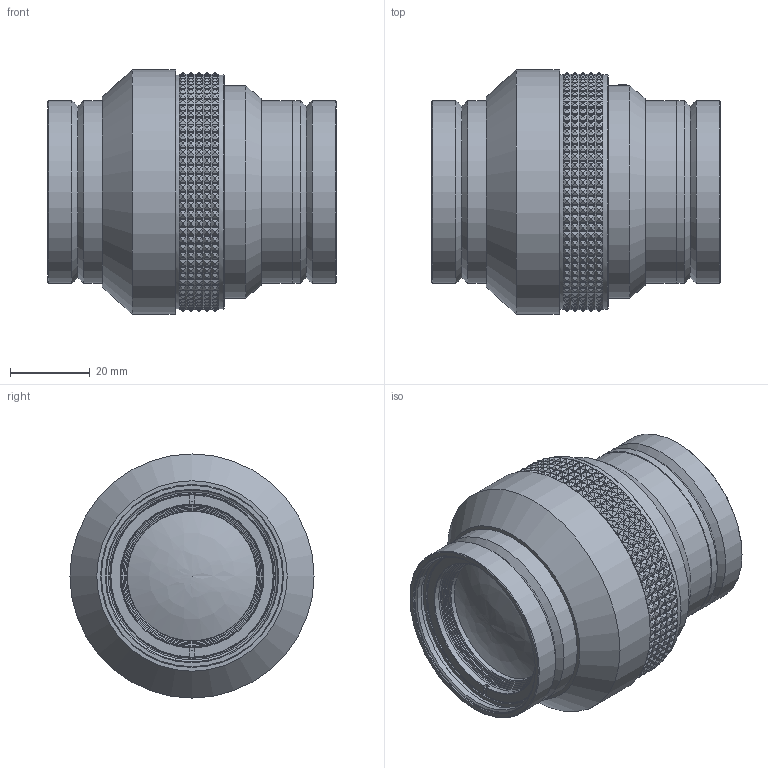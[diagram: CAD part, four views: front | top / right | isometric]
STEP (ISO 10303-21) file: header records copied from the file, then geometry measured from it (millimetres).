
FILE_DESCRIPTION(/* description */ (''),/* implementation_level */ '2;1');
FILE_NAME(/* name */ 'IDummy004372_a.stp',/* time_stamp */ '2011-09-19T09:04:58+02:00',/* author */ (''),/* organization */ (''),/* preprocessor_version */ 'ST-DEVELOPER v11',/* originating_system */ 'SIEMENS UGS NX 6.0',/* authorisation */ '');
FILE_SCHEMA (('AUTOMOTIVE_DESIGN { 1 0 10303 214 1 1 1 1 }'));
Length unit declared in the file: millimetre
Products named in the file (1): cordB83Erc15
Bounding box: 72.49 x 61.4 x 61.4 mm (x, y, z)
Volume: 138602.9 mm3; surface area: 19660 mm2
Topology: 1 solids, 1 shells, 2579 faces, 6514 edges, 3947 vertices
Faces by surface type: plane 1268, cone 873, cylinder 436, revolution 2
Full cylindrical faces by diameter (mm): 2.5 x1, 32.6 x2, 32.621 x1, 36 x2, 41 x2, 42.188 x2, 43.2 x4, 45.8 x1, 46 x4, 53.4 x1, 59 x2, 61.4 x1
Entity records: 78470 total; most frequent: CARTESIAN_POINT 22907, ORIENTED_EDGE 12844, DIRECTION 9702, EDGE_CURVE 6422, AXIS2_PLACEMENT_3D 4001, VERTEX_POINT 3926, B_SPLINE_CURVE_WITH_KNOTS 3303, EDGE_LOOP 2658
